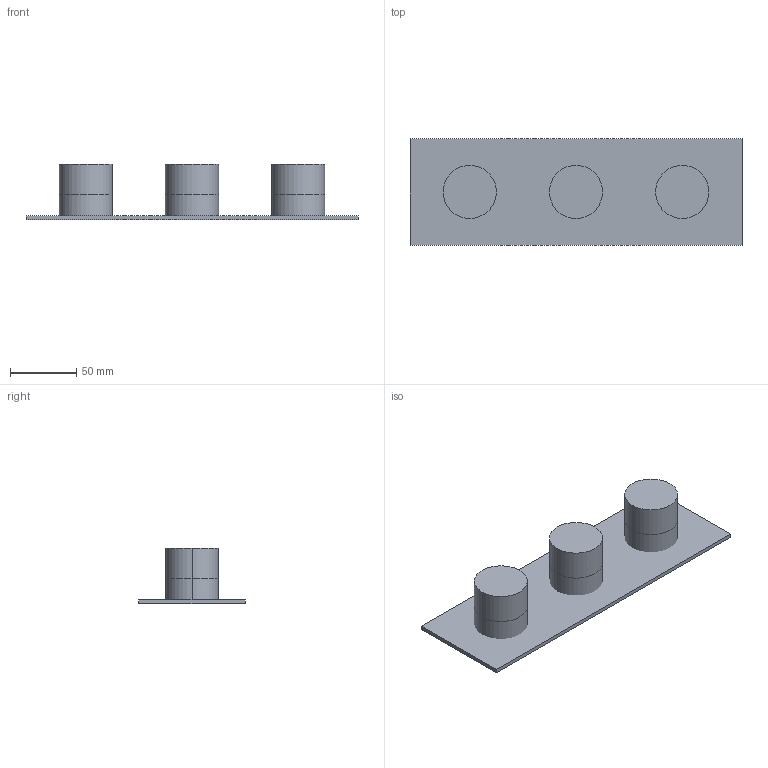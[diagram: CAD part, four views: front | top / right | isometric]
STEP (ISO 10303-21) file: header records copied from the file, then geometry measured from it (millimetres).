
FILE_DESCRIPTION(('FreeCAD Model'),'2;1');
FILE_NAME('Open CASCADE Shape Model','2024-07-25T19:08:35',('Author'),( ''),'Open CASCADE STEP processor 7.6','FreeCAD','Unknown');
FILE_SCHEMA(('AUTOMOTIVE_DESIGN { 1 0 10303 214 1 1 1 1 }'));
Length unit declared in the file: millimetre
Products named in the file (11): TopLevelAssembly; Wyciąganie001; Wyciąganie002; Wyciąganie003; Wyciąganie004; Wyciąganie005; Wyciąganie006; Wyciąganie007; Wyciąganie014; Wyciąganie015; Wyciąganie016
Assembly tree (10 placements, depth 2):
  TopLevelAssembly
    Wyciąganie001
    Wyciąganie002
    Wyciąganie003
    Wyciąganie004
    Wyciąganie005
    Wyciąganie006
    Wyciąganie007
    Wyciąganie014
    Wyciąganie015
    Wyciąganie016
Bounding box: 250 x 80 x 42 mm (x, y, z)
Volume: 376672.5 mm3; surface area: 96266.7 mm2
Topology: 10 solids, 10 shells, 42 faces, 66 edges, 44 vertices
Faces by surface type: plane 24, cylinder 18
Entity records: 1240 total; most frequent: DIRECTION 208, CARTESIAN_POINT 163, ORIENTED_EDGE 132, AXIS2_PLACEMENT_3D 89, EDGE_CURVE 66, VERTEX_POINT 44, ADVANCED_FACE 42, FACE_BOUND 42
